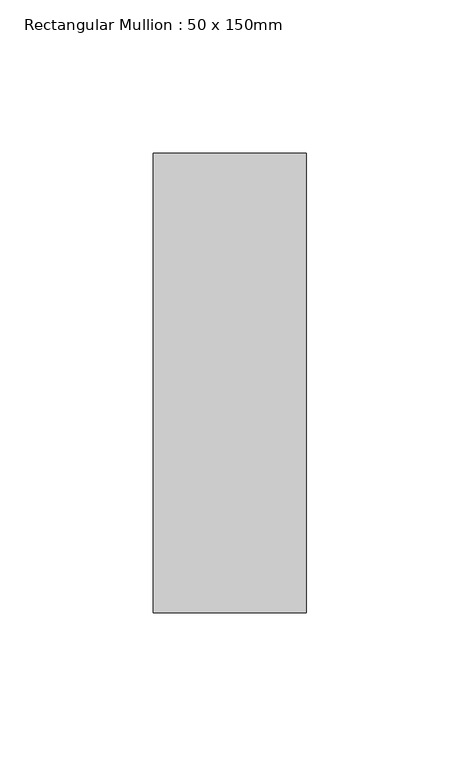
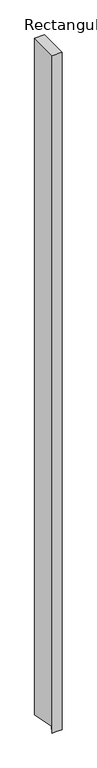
"""IFC4 building model written with IfcOpenShell, lengths in millimetres: member geometry, Rectangular Mullion : 50 x 150mm."""

from ifc_helpers import new_model, si_unit, origin, place, context, project, spatial, faceted_brep, source, transform, mapped, element, save


def rectangular_mullion_50_x_150mm_d9fe8572(model_context):
    return source(origin(), model_context, "Body", "Brep", [
        faceted_brep([(25.0, 75.0, 0.0), (-25.0, 75.0, 0.0), (-25.0, -75.0, 0.0), (25.0, -75.0, 0.0), (25.0, 75.0, -3544.982063), (0.0, 75.0, -3544.982063), (-25.0, 75.0, -3544.982063), (-25.0, -69.2621187, -3518.533318), (-25.0, -75.0, -3549.8300358), (0.0, -75.0, -3549.8300358), (25.0, -75.0, -3549.8300358), (25.0, -69.2621187, -3518.533318), (0.0, -69.2621187, -3518.533318)], [[[0, 1, 2, 3]], [[1, 0, 4, 5, 6]], [[2, 1, 6, 7, 8]], [[3, 2, 8, 9, 10]], [[0, 3, 10, 11, 4]], [[4, 11, 12, 5]], [[11, 10, 9, 12]], [[9, 8, 7, 12]], [[7, 6, 5, 12]]]),
    ])


if __name__ == "__main__":
    model = new_model("IFC4")
    model_context = context("Model", 3, world=origin())
    ifc_project = project(units=[si_unit("LENGTHUNIT", "METRE", prefix="MILLI")], contexts=[model_context])
    site = spatial("IfcSite", under=ifc_project)
    building = spatial("IfcBuilding", under=site)
    placement = place(None, origin())
    rectangular_mullion_50_x_150mm_shape = rectangular_mullion_50_x_150mm_d9fe8572(model_context)
    element("IfcMember", 1, ObjectType="Rectangular Mullion : 50 x 150mm", at=placement, inside=building, context=model_context, shape_type="MappedRepresentation", body=[
        mapped(rectangular_mullion_50_x_150mm_shape, transform((0.0, 0.0, 0.0), x_axis=(1.0, 0.0, 0.0), y_axis=(0.0, 1.0, 0.0), z_axis=(0.0, 0.0, 1.0))),
    ])
    save(model, "model.ifc")
